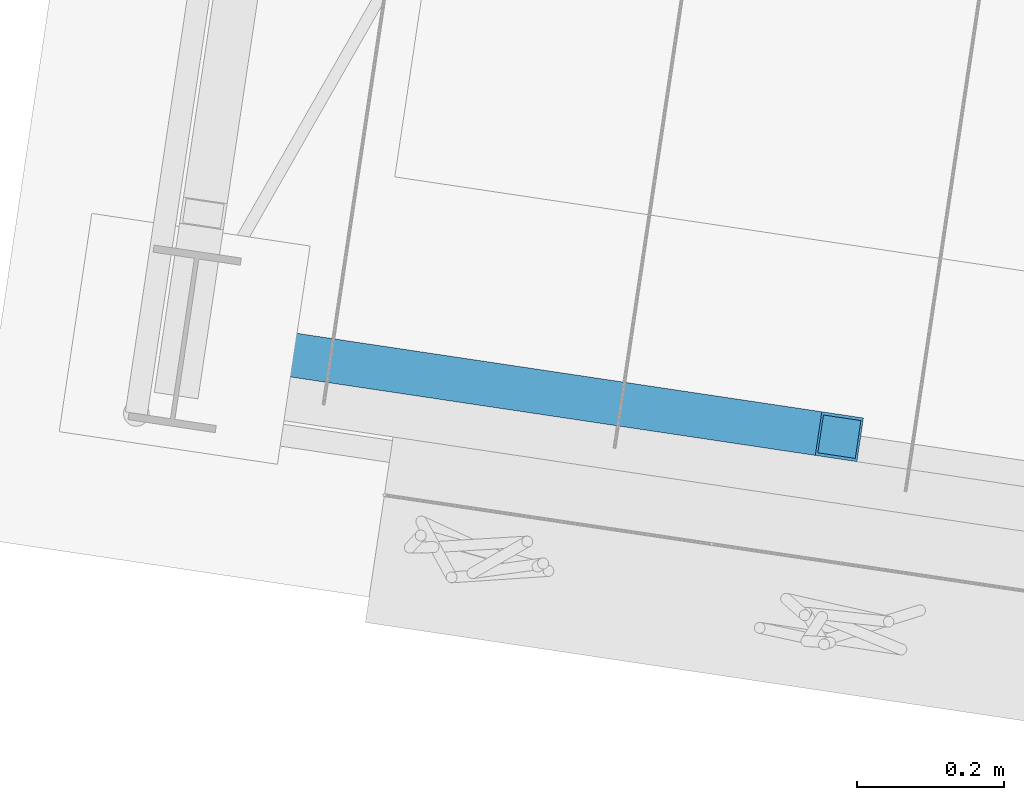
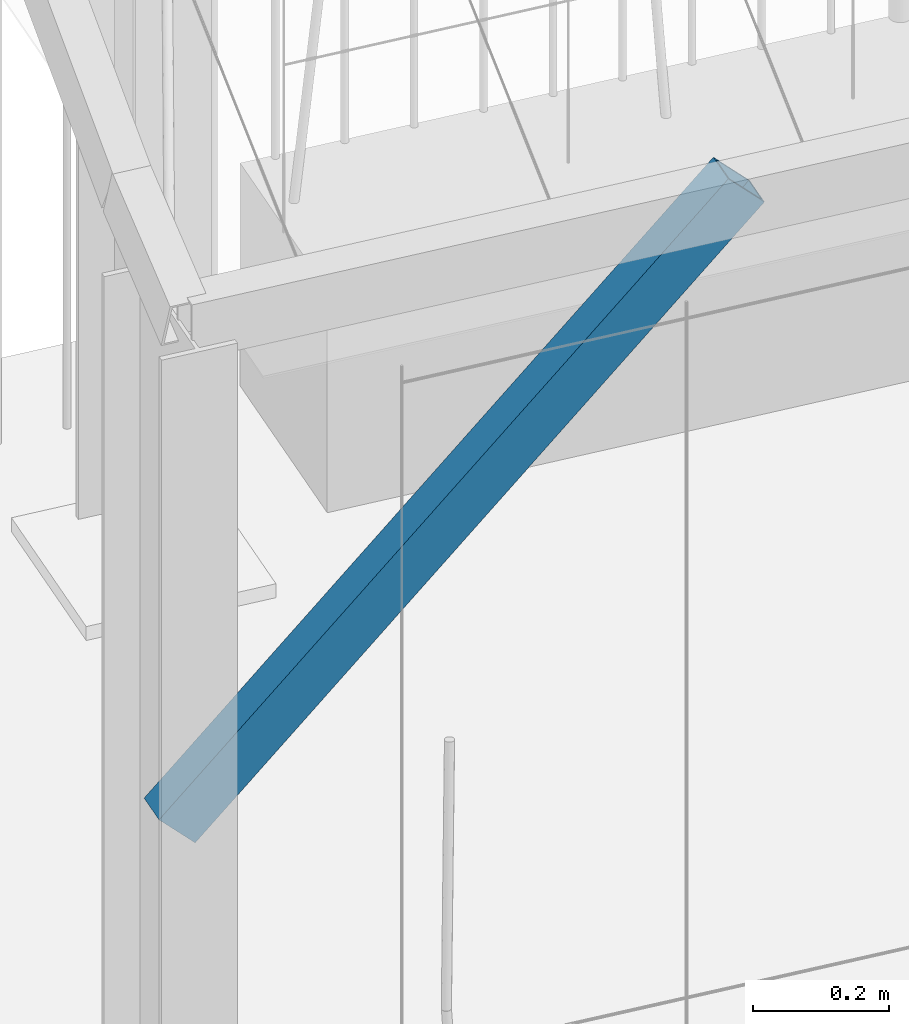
# One storey, part 8 of 143: 1 member, 1 element without a shape of its own.
"""IFC4 building model written with IfcOpenShell, lengths in metres."""

import ifcopenshell
import ifcopenshell.guid

model = None  # the IFC model being written
_history = None  # IfcOwnerHistory: only IFC2X3 demands one
_inside = {}  # id of a spatial element -> (the spatial element, [elements in it])
_under = {}  # id of a project, library or spatial element -> (it, [spatial elements below it])
_declared = {}  # id of a project -> (the project, [libraries it declares])
_typed = {}  # id of a type object -> (the type object, [elements of that type])
_made_of = {}  # id of a material, layer set ... -> (it, [elements and type objects made of it])


def new_model(schema):
    """Start an empty IFC model of exactly this schema.

    Asked for "IFC4X3", IfcOpenShell would pick the latest addendum, in which some entities
    have other attributes; the version numbers below select the first issue.
    IFC2X3 requires an IfcOwnerHistory on every rooted entity: one is made here for all.
    """
    global model, _history
    if schema == "IFC4X3":
        model = ifcopenshell.file(schema_version=(4, 3, 0, 0))
    else:
        model = ifcopenshell.file(schema=schema)
    _inside.clear()
    _under.clear()
    _declared.clear()
    _typed.clear()
    _made_of.clear()
    _history = None
    if model.schema == "IFC2X3":
        org = make("IfcOrganization", Name="unknown")
        user = make(
            "IfcPersonAndOrganization",
            ThePerson=make("IfcPerson", FamilyName="unknown"),
            TheOrganization=org,
        )
        app = make(
            "IfcApplication",
            ApplicationDeveloper=org,
            Version="unknown",
            ApplicationFullName="unknown",
            ApplicationIdentifier="unknown",
        )
        _history = make(
            "IfcOwnerHistory",
            OwningUser=user,
            OwningApplication=app,
            ChangeAction="ADDED",
            CreationDate=0,
        )
    return model


def make(cls, **values):
    """One entity of the class cls with the attributes given. An attribute that is None is left unset."""
    return model.create_entity(
        cls, **{name: value for name, value in values.items() if value is not None}
    )


def rooted(cls, **values):
    """An entity with a GlobalId (a new one), such as an element, a storey or a relation."""
    return make(cls, GlobalId=ifcopenshell.guid.new(), OwnerHistory=_history, **values)


def si_unit(unit_type, name, prefix=None):
    """IfcSIUnit, for example si_unit("LENGTHUNIT", "METRE", prefix="MILLI")."""
    return make("IfcSIUnit", UnitType=unit_type, Prefix=prefix, Name=name)


def assignment(units):
    """IfcUnitAssignment: the units of a project."""
    return None if units is None else make("IfcUnitAssignment", Units=units)


def point(xyz):
    """IfcCartesianPoint."""
    return None if xyz is None else make("IfcCartesianPoint", Coordinates=xyz)


def direction(xyz):
    """IfcDirection."""
    return None if xyz is None else make("IfcDirection", DirectionRatios=xyz)


def frame(location, z_axis=None, x_axis=None):
    """IfcAxis2Placement3D, a coordinate frame: its origin and axes. An axis left out is left unset."""
    return make(
        "IfcAxis2Placement3D",
        Location=point(location),
        Axis=direction(z_axis),
        RefDirection=direction(x_axis),
    )


def origin_with_axes():
    """The frame at (0, 0, 0) with the z axis (0, 0, 1) and the x axis (1, 0, 0) written out."""
    return frame((0.0, 0.0, 0.0), z_axis=(0.0, 0.0, 1.0), x_axis=(1.0, 0.0, 0.0))


def place(relative_to, where):
    """IfcLocalPlacement: puts the frame where relative to a parent placement (None: the world)."""
    return make(
        "IfcLocalPlacement", PlacementRelTo=relative_to, RelativePlacement=where
    )


def context(
    kind, dimensions, precision=None, world=None, true_north=None, identifier=None
):
    """IfcGeometricRepresentationContext, for example the 3D "Model" context."""
    return make(
        "IfcGeometricRepresentationContext",
        ContextIdentifier=identifier,
        ContextType=kind,
        CoordinateSpaceDimension=dimensions,
        Precision=precision,
        WorldCoordinateSystem=world,
        TrueNorth=true_north,
    )


def subcontext(parent, identifier, kind, view, scale=None):
    """IfcGeometricRepresentationSubContext, for example "Body" below "Model"."""
    return make(
        "IfcGeometricRepresentationSubContext",
        ContextIdentifier=identifier,
        ContextType=kind,
        ParentContext=parent,
        TargetScale=scale,
        TargetView=view,
    )


def project(units=None, contexts=None):
    """IfcProject with its units and contexts."""
    return rooted(
        "IfcProject",
        Name="project",
        RepresentationContexts=contexts,
        UnitsInContext=assignment(units),
    )


def spatial(cls, under=None, at=None, **own):
    """A site, building, storey or space (cls), placed at a placement, below another one or the project."""
    s = rooted(cls, ObjectPlacement=at, **own)
    if under is not None:
        _under.setdefault(under.id(), (under, []))[1].append(s)
    return s


def profile(cls, at=None, kind="AREA", **sizes):
    """A parametric profile (cls). Its sizes go by their IFC names, for example OverallWidth=200.0."""
    return make(cls, ProfileType=kind, Position=at, **sizes)


def hollow_rectangle(**sizes):
    """IfcRectangleHollowProfileDef."""
    return profile("IfcRectangleHollowProfileDef", **sizes)


def extrude(swept, where, along, depth):
    """IfcExtrudedAreaSolid: the profile swept, set in the frame where, extruded along a direction by depth."""
    return make(
        "IfcExtrudedAreaSolid",
        SweptArea=swept,
        Position=where,
        ExtrudedDirection=direction(along),
        Depth=depth,
    )


def shape(context_of_items, identifier, shape_type, items):
    """IfcShapeRepresentation: the items that make up one representation, for example the "Body"."""
    return make(
        "IfcShapeRepresentation",
        ContextOfItems=context_of_items,
        RepresentationIdentifier=identifier,
        RepresentationType=shape_type,
        Items=items,
    )


def material(Name=None, Category=None):
    """IfcMaterial."""
    return make("IfcMaterial", Name=Name, Category=Category)


def material_profile(
    of_material, cross_section, Name=None, Category=None, Priority=None
):
    """IfcMaterialProfile: a cross section and its material."""
    return make(
        "IfcMaterialProfile",
        Name=Name,
        Material=of_material,
        Profile=cross_section,
        Priority=Priority,
        Category=Category,
    )


def profile_set(profiles, Name=None, composite=None):
    """IfcMaterialProfileSet."""
    return make(
        "IfcMaterialProfileSet",
        Name=Name,
        MaterialProfiles=profiles,
        CompositeProfile=composite,
    )


def profile_usage(for_profile_set, cardinal=None, extent=None):
    """IfcMaterialProfileSetUsage: how a profile set lies along its element."""
    return make(
        "IfcMaterialProfileSetUsage",
        ForProfileSet=for_profile_set,
        CardinalPoint=cardinal,
        ReferenceExtent=extent,
    )


def made_of(thing, what):
    """Note that an element or type object is made of a material, layer set ...; save() writes the relation."""
    if what is not None:
        _made_of.setdefault(what.id(), (what, []))[1].append(thing)
    return thing


def type_object(cls, material=None, **own):
    """A type object (cls), such as IfcWallType, which elements share."""
    return made_of(rooted(cls, **own), material)


def element(
    cls,
    number,
    at=None,
    inside=None,
    cuts=None,
    type_object=None,
    material=None,
    context=None,
    identifier="Body",
    shape_type=None,
    held_by="IfcProductDefinitionShape",
    body=None,
    shapes=None,
    **own,
):
    """One element of the class cls, such as IfcWall. Its Tag is "e" and its number.

    at: its placement. inside: the storey or other place that contains it. cuts: it is an
    opening in that element (IfcRelVoidsElement). A single representation is given by context,
    identifier, shape_type and body (its items); several are given by shapes. held_by: the class
    of the entity that holds the representations. save() writes the other relations.
    """
    e = rooted(cls, Tag="e%d" % number, ObjectPlacement=at, **own)
    if body is not None:
        shapes = [shape(context, identifier, shape_type, body)]
    if shapes is not None:
        e.Representation = make(held_by, Representations=shapes)
    if inside is not None:
        _inside.setdefault(inside.id(), (inside, []))[1].append(e)
    if cuts is not None:
        rooted(
            "IfcRelVoidsElement", RelatingBuildingElement=cuts, RelatedOpeningElement=e
        )
    if type_object is not None:
        _typed.setdefault(type_object.id(), (type_object, []))[1].append(e)
    return made_of(e, material)


def aggregate(whole, parts):
    """IfcRelAggregates: a whole, such as a stair, and the parts it consists of."""
    return rooted("IfcRelAggregates", RelatingObject=whole, RelatedObjects=parts)


def save(model, path):
    """Write the relations noted so far, then the file.

    IfcRelAggregates (storeys below a building ...), IfcRelContainedInSpatialStructure (elements
    in a storey), IfcRelDefinesByType, IfcRelAssociatesMaterial and IfcRelDeclares: one each for
    every whole, place, type object, material and project.
    """
    for whole, parts in _under.values():
        aggregate(whole, parts)
    for where, things in _inside.values():
        rooted(
            "IfcRelContainedInSpatialStructure",
            RelatedElements=things,
            RelatingStructure=where,
        )
    for kind, things in _typed.values():
        rooted("IfcRelDefinesByType", RelatedObjects=things, RelatingType=kind)
    for what, things in _made_of.values():
        rooted("IfcRelAssociatesMaterial", RelatedObjects=things, RelatingMaterial=what)
    for by, libraries in _declared.values():
        rooted("IfcRelDeclares", RelatingContext=by, RelatedDefinitions=libraries)
    model.write(path)


model = new_model("IFC4")

# Units and contexts
model_context = context("Model", 3, precision=1e-05, world=origin_with_axes(), true_north=direction((0.0, 1.0)))
body_context = subcontext(model_context, "Body", "Model", "MODEL_VIEW")
ifc_project = project(units=[si_unit("VOLUMEUNIT", "CUBIC_METRE"), si_unit("LENGTHUNIT", "METRE"), si_unit("AREAUNIT", "SQUARE_METRE")], contexts=[model_context])

# Site, building, storey
site_placement = place(None, origin_with_axes())
site = spatial("IfcSite", under=ifc_project, at=site_placement, Name="Lares · Rua das Mercês · artigo 4771")
building_placement = place(site_placement, frame((15.0, 9.7, 15.8), z_axis=(0.0, 0.0, 1.0), x_axis=(0.989015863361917, -0.147809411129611, 0.0)))
building = spatial("IfcBuilding", under=site, at=building_placement, Name="Casa Sobreposta")
storey_placement = place(building_placement, origin_with_axes())
storey = spatial("IfcBuildingStorey", under=building, at=storey_placement, Name="00 · Habitação e estacionamento", Elevation=15.8)

# Assembly, member
assembly_placement = place(storey_placement, origin_with_axes())
assembly = element("IfcElementAssembly", 1, at=assembly_placement, inside=storey, Name="Pérgola · prolongamento da estufa 6 m", ObjectType="PERGOLA_GREENHOUSE_EXTENSION", PredefinedType="USERDEFINED")
ifc_material = material(Name="Aço pintado / Stahl lackiert", Category="steel")
ifc_material_profile = material_profile(ifc_material, hollow_rectangle(XDim=0.06, YDim=0.08, WallThickness=0.004))
ifc_profile_set = profile_set([ifc_material_profile], Name="RHS80x60x4")
ifc_profile_usage = profile_usage(ifc_profile_set)
member_type = type_object("IfcMemberType", Name="RHS80x60x4 / steel", PredefinedType="NOTDEFINED", material=ifc_profile_set)
member_placement = place(assembly_placement, frame((-6.0, -1.44, 5.3), z_axis=(0.699294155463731, 0.0, 0.714834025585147), x_axis=(0.0, -1.0, 0.0)))
member = element("IfcMember", 2, at=member_placement, type_object=member_type, material=ifc_profile_usage, Name="Pérgola · escora alta", context=body_context, shape_type="SweptSolid", body=[
    extrude(hollow_rectangle(XDim=0.06, YDim=0.08, WallThickness=0.004), origin_with_axes(), (0.0, 0.0, 1.0), 1.28701204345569),
])
aggregate(assembly, [member])

save(model, "model.ifc")
